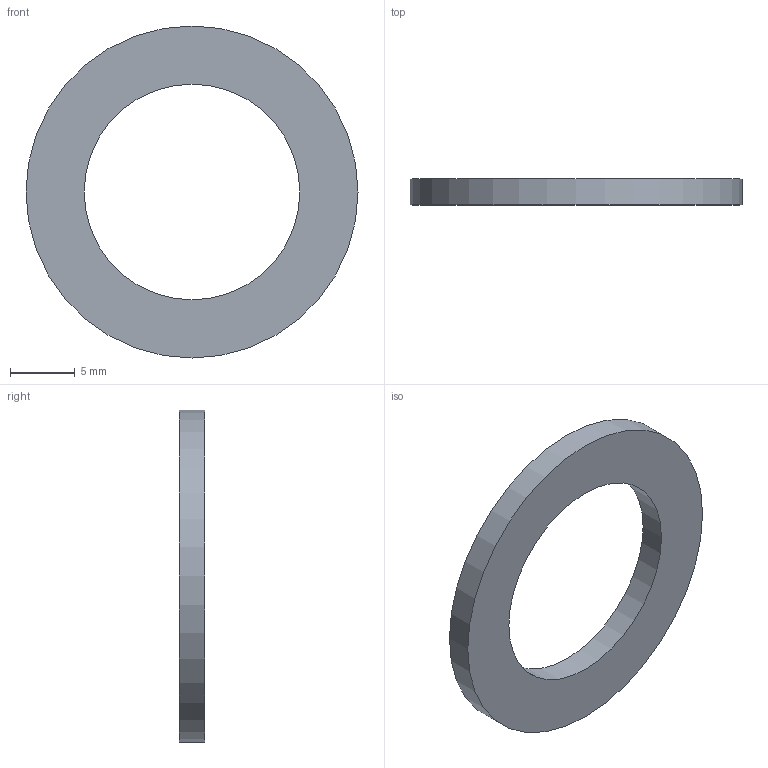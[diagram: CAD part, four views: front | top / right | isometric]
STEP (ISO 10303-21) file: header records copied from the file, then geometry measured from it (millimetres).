
FILE_DESCRIPTION(('Open CASCADE Model'),'2;1');
FILE_NAME('Open CASCADE Shape Model','2026-10-20T13:19:34',('Author'),( 'Open CASCADE'),'Open CASCADE STEP processor 7.9','Open CASCADE 7.9' ,'Unknown');
FILE_SCHEMA(('AUTOMOTIVE_DESIGN { 1 0 10303 214 1 1 1 1 }'));
Length unit declared in the file: millimetre
Products named in the file (1): Open CASCADE STEP translator 7.9 12
Bounding box: 25.6 x 2 x 25.6 mm (x, y, z)
Volume: 594.5 mm3; surface area: 859.9 mm2
Topology: 1 solids, 1 shells, 4 faces, 6 edges, 4 vertices
Faces by surface type: cylinder 2, plane 2
Full cylindrical faces by diameter (mm): 16.64 x1, 25.6 x1
Entity records: 186 total; most frequent: DIRECTION 32, CARTESIAN_POINT 27, ORIENTED_EDGE 12, PCURVE 12, DEFINITIONAL_REPRESENTATION 12, LINE 10, VECTOR 10, AXIS2_PLACEMENT_3D 9
